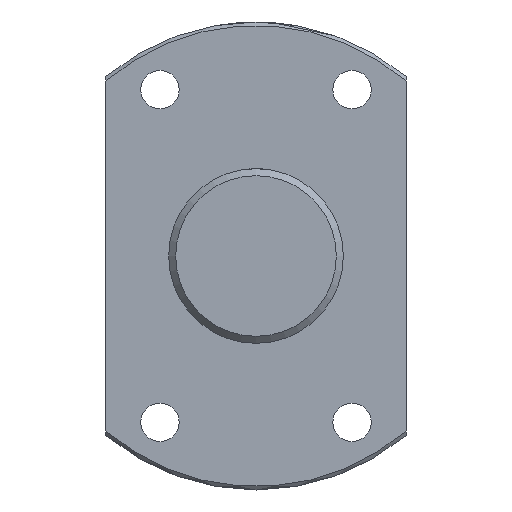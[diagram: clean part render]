
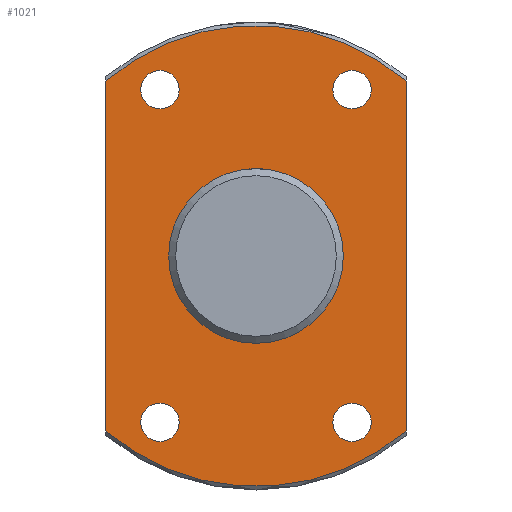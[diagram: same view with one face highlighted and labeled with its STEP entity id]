
A CAD part, left-side view. The second image highlights one B-rep face of the part: STEP entity #1021.
In plain terms, the highlighted planar face has unit normal (-1, 0, 0).
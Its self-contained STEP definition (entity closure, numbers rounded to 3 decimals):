
#315=CARTESIAN_POINT('',(482.201,-21.5,25.035));
#316=VERTEX_POINT('',#315);
#341=CARTESIAN_POINT('',(482.201,21.5,25.035));
#342=VERTEX_POINT('',#341);
#356=CARTESIAN_POINT('',(482.201,0.0,0.0));
#357=DIRECTION('',(1.0,0.0,0.0));
#358=DIRECTION('',(0.0,1.0,0.0));
#359=AXIS2_PLACEMENT_3D('',#356,#357,#358);
#360=CIRCLE('',#359,33.0);
#361=EDGE_CURVE('',#342,#316,#360,.T.);
#484=CARTESIAN_POINT('',(482.201,-21.5,-25.035));
#485=VERTEX_POINT('',#484);
#486=CARTESIAN_POINT('',(482.201,-21.5,25.035));
#487=DIRECTION('',(0.0,0.0,-1.0));
#488=VECTOR('',#487,50.07);
#489=LINE('',#486,#488);
#490=EDGE_CURVE('',#316,#485,#489,.T.);
#566=CARTESIAN_POINT('',(482.201,21.5,-25.035));
#567=VERTEX_POINT('',#566);
#591=CARTESIAN_POINT('',(482.201,0.0,0.0));
#592=DIRECTION('',(1.0,0.0,0.0));
#593=DIRECTION('',(0.0,1.0,0.0));
#594=AXIS2_PLACEMENT_3D('',#591,#592,#593);
#595=CIRCLE('',#594,33.0);
#596=EDGE_CURVE('',#485,#567,#595,.T.);
#677=CARTESIAN_POINT('',(482.201,21.5,-25.035));
#678=DIRECTION('',(0.0,0.0,1.0));
#679=VECTOR('',#678,50.07);
#680=LINE('',#677,#679);
#681=EDGE_CURVE('',#567,#342,#680,.T.);
#903=CARTESIAN_POINT('',(482.201,12.5,0.));
#904=VERTEX_POINT('',#903);
#905=CARTESIAN_POINT('',(482.201,0.0,0.0));
#906=DIRECTION('',(1.0,0.0,0.0));
#907=DIRECTION('',(0.0,-1.0,0.0));
#908=AXIS2_PLACEMENT_3D('',#905,#906,#907);
#909=CIRCLE('',#908,12.5);
#910=EDGE_CURVE('',#904,#904,#909,.T.);
#923=CARTESIAN_POINT('',(482.201,16.5,-23.816));
#924=VERTEX_POINT('',#923);
#925=CARTESIAN_POINT('',(482.201,13.75,-23.816));
#926=DIRECTION('',(1.0,0.0,0.0));
#927=DIRECTION('',(0.0,1.0,0.0));
#928=AXIS2_PLACEMENT_3D('',#925,#926,#927);
#929=CIRCLE('',#928,2.75);
#930=EDGE_CURVE('',#924,#924,#929,.T.);
#943=CARTESIAN_POINT('',(482.201,-11.,23.816));
#944=VERTEX_POINT('',#943);
#945=CARTESIAN_POINT('',(482.201,-13.75,23.816));
#946=DIRECTION('',(1.0,0.0,0.0));
#947=DIRECTION('',(0.0,1.0,0.0));
#948=AXIS2_PLACEMENT_3D('',#945,#946,#947);
#949=CIRCLE('',#948,2.75);
#950=EDGE_CURVE('',#944,#944,#949,.T.);
#963=CARTESIAN_POINT('',(482.201,16.5,23.816));
#964=VERTEX_POINT('',#963);
#965=CARTESIAN_POINT('',(482.201,13.75,23.816));
#966=DIRECTION('',(1.0,0.0,0.0));
#967=DIRECTION('',(0.0,1.0,0.0));
#968=AXIS2_PLACEMENT_3D('',#965,#966,#967);
#969=CIRCLE('',#968,2.75);
#970=EDGE_CURVE('',#964,#964,#969,.T.);
#983=CARTESIAN_POINT('',(482.201,-11.,-23.816));
#984=VERTEX_POINT('',#983);
#985=CARTESIAN_POINT('',(482.201,-13.75,-23.816));
#986=DIRECTION('',(1.0,0.0,0.0));
#987=DIRECTION('',(0.0,1.0,0.0));
#988=AXIS2_PLACEMENT_3D('',#985,#986,#987);
#989=CIRCLE('',#988,2.75);
#990=EDGE_CURVE('',#984,#984,#989,.T.);
#995=CARTESIAN_POINT('',(482.201,0.0,0.0));
#996=DIRECTION('',(-1.0,0.0,0.0));
#997=DIRECTION('',(0.0,0.0,1.0));
#998=AXIS2_PLACEMENT_3D('',#995,#996,#997);
#999=PLANE('',#998);
#1000=ORIENTED_EDGE('',*,*,#361,.F.);
#1001=ORIENTED_EDGE('',*,*,#681,.F.);
#1002=ORIENTED_EDGE('',*,*,#596,.F.);
#1003=ORIENTED_EDGE('',*,*,#490,.F.);
#1004=EDGE_LOOP('',(#1000,#1001,#1002,#1003));
#1005=FACE_OUTER_BOUND('',#1004,.T.);
#1006=ORIENTED_EDGE('',*,*,#910,.T.);
#1007=EDGE_LOOP('',(#1006));
#1008=FACE_BOUND('',#1007,.T.);
#1009=ORIENTED_EDGE('',*,*,#930,.T.);
#1010=EDGE_LOOP('',(#1009));
#1011=FACE_BOUND('',#1010,.T.);
#1012=ORIENTED_EDGE('',*,*,#950,.T.);
#1013=EDGE_LOOP('',(#1012));
#1014=FACE_BOUND('',#1013,.T.);
#1015=ORIENTED_EDGE('',*,*,#970,.T.);
#1016=EDGE_LOOP('',(#1015));
#1017=FACE_BOUND('',#1016,.T.);
#1018=ORIENTED_EDGE('',*,*,#990,.T.);
#1019=EDGE_LOOP('',(#1018));
#1020=FACE_BOUND('',#1019,.T.);
#1021=ADVANCED_FACE('',(#1005,#1008,#1011,#1014,#1017,#1020),#999,.T.);
